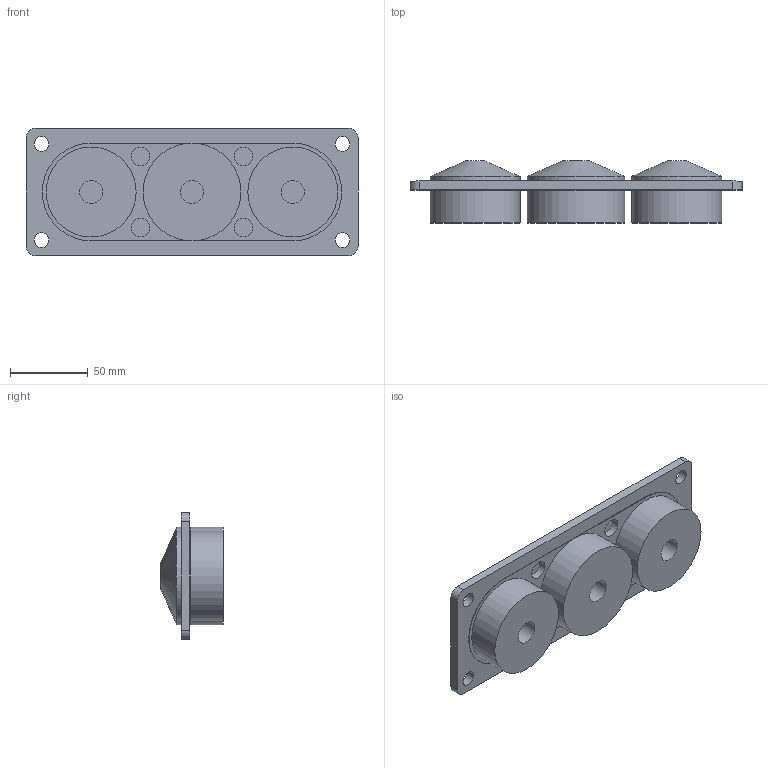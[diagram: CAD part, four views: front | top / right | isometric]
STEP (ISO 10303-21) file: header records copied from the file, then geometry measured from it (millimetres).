
FILE_DESCRIPTION(/* description */ ('STEP AP203'),/* implementation_level */ '2;1');
FILE_NAME(/* name */ '100235 MC 3',/* time_stamp */ '2024-10-07T14:05:14+02:00',/* author */ ('License CC BY-ND 4.0'),/* organization */ ('CADENAS'),/* preprocessor_version */ 'ST-DEVELOPER v19.3',/* originating_system */ 'PARTsolutions',/* authorisation */ ' ');
FILE_SCHEMA (('CONFIG_CONTROL_DESIGN'));
Length unit declared in the file: millimetre
Products named in the file (1): 100235 MC 3
Bounding box: 214 x 40 x 82 mm (x, y, z)
Volume: 328234.4 mm3; surface area: 55998.7 mm2
Topology: 1 solids, 1 shells, 49 faces, 106 edges, 72 vertices
Faces by surface type: plane 23, cylinder 23, cone 3
Full cylindrical faces by diameter (mm): 9.5 x4, 12 x4, 15 x3, 58 x4, 63 x2
Entity records: 1218 total; most frequent: DIRECTION 226, CARTESIAN_POINT 188, ORIENTED_EDGE 152, AXIS2_PLACEMENT_3D 100, EDGE_LOOP 90, FACE_BOUND 90, EDGE_CURVE 76, VERTEX_POINT 62
